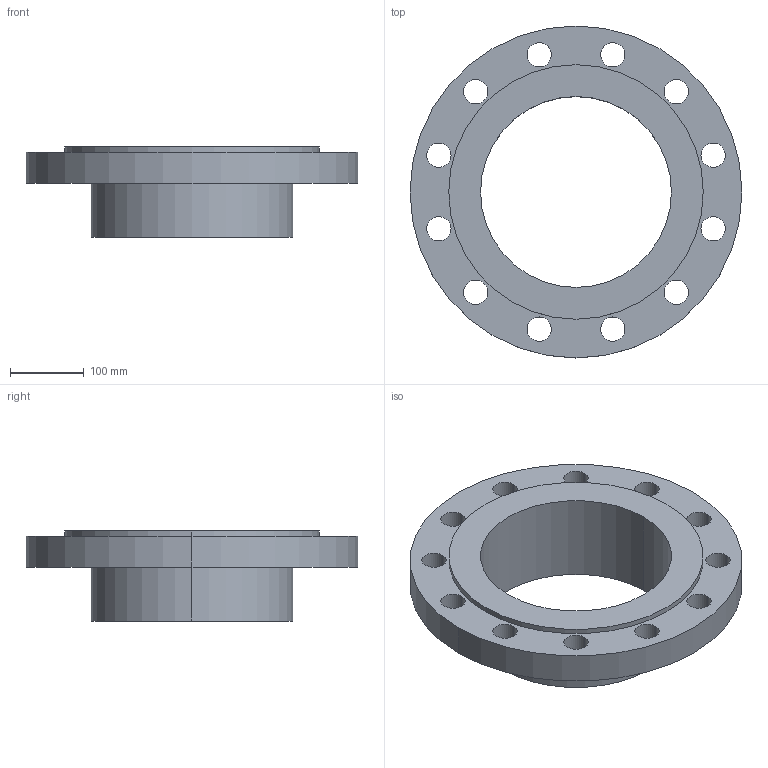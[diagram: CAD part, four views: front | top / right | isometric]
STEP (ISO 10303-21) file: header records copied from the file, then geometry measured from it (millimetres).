
FILE_DESCRIPTION (( 'STEP AP214' ), '1' );
FILE_NAME ('PN40 DN250 Type 02 in 33 - (Type A Face).STEP', '2019-01-05T16:37:38', ( '' ), ( '' ), 'SwSTEP 2.0', 'SolidWorks 2019', '' );
FILE_SCHEMA (( 'AUTOMOTIVE_DESIGN' ));
Length unit declared in the file: millimetre
Products named in the file (1): PN40 DN250 Type 02 in 33 - (Type A Face)
Bounding box: 450 x 450 x 122.1 mm (x, y, z)
Volume: 4615569.1 mm3; surface area: 601596.4 mm2
Topology: 2 solids, 2 shells, 43 faces, 110 edges, 72 vertices
Faces by surface type: cylinder 34, plane 5, cone 4
Entity records: 1443 total; most frequent: DIRECTION 270, CARTESIAN_POINT 226, ORIENTED_EDGE 220, AXIS2_PLACEMENT_3D 116, EDGE_CURVE 110, CIRCLE 72, VERTEX_POINT 72, EDGE_LOOP 72
